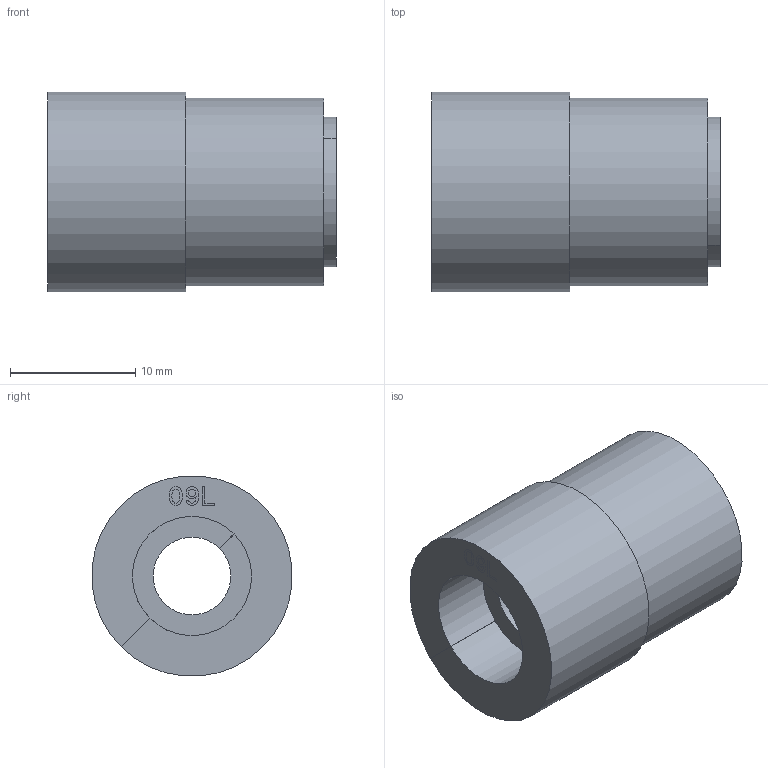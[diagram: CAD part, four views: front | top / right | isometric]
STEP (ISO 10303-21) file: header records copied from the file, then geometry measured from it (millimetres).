
FILE_DESCRIPTION(('Creo Elements/Direct Modeling STEP Export'),'2;1');
FILE_NAME('H11-0005-CL907-00_G13-09RS.stp','2023-06-08T13:03:00',(''),(''),'Creo Elements/Direct Modeling STEP processor for AP214 (Solid Model)','Creo Elements/Direct Modeling 20.3B 05-Dec-2020 (C) Parametric Technology GmbH','');
FILE_SCHEMA(('AUTOMOTIVE_DESIGN { 1 0 10303 214 1 1 1 1 }'));
Length unit declared in the file: millimetre
Products named in the file (3): G13-09ARS; G13-09BRS; G13-09RS
Assembly tree (2 placements, depth 2):
  G13-09RS
    G13-09BRS
    G13-09ARS
Bounding box: 23 x 15.94 x 15.94 mm (x, y, z)
Volume: 3374 mm3; surface area: 3247 mm2
Topology: 2 solids, 2 shells, 23 faces, 191 edges, 177 vertices
Faces by surface type: plane 15, cylinder 7, torus 1
Entity records: 1978 total; most frequent: CARTESIAN_POINT 412, ORIENTED_EDGE 382, DIRECTION 243, EDGE_CURVE 191, VERTEX_POINT 177, VECTOR 175, LINE 175, AXIS2_PLACEMENT_3D 34
